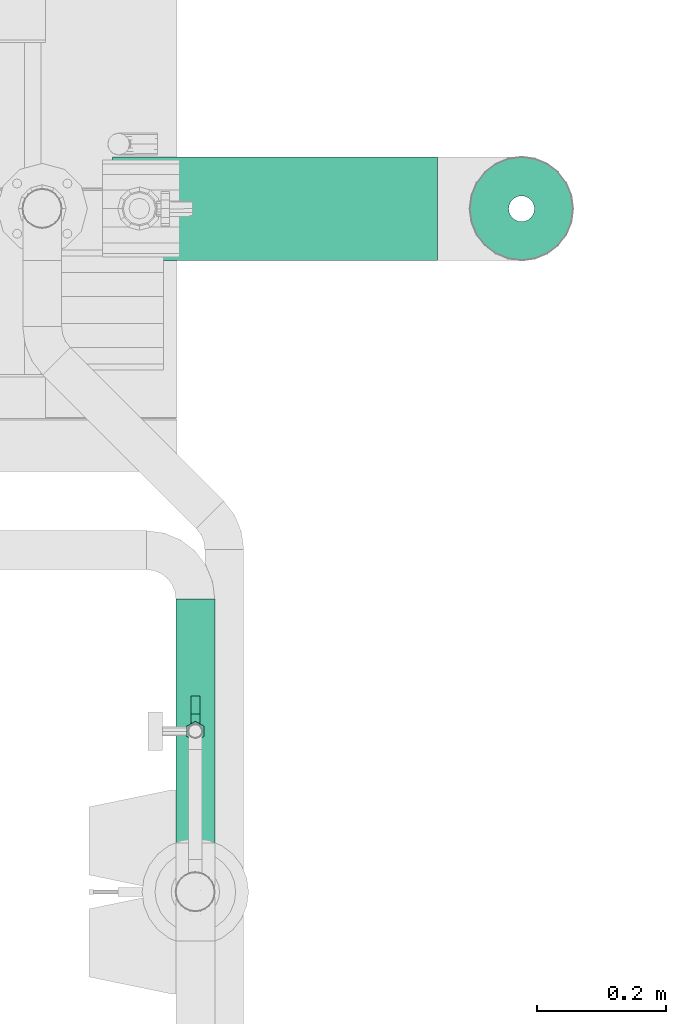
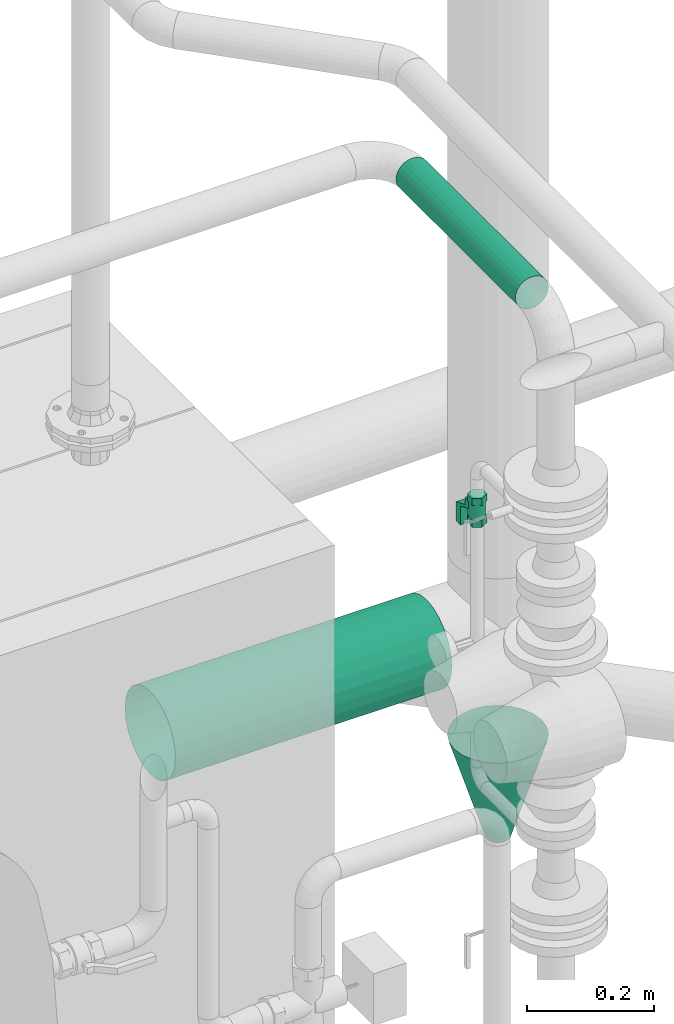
# One storey, part 293 of 374: 2 flow segments, 1 flow controller, 1 flow fitting.
"""IFC2X3 building model written with IfcOpenShell, lengths in metres."""

from ifc_helpers import new_model, si_unit, direction, origin, place, context, subcontext, project, spatial, open_shell, surface_model, source, transform, mapped, element, save


model = new_model("IFC2X3")

# Units and contexts
model_context = context("Model", 3, precision=1e-05, world=origin(), true_north=direction((-0.4480736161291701, 0.8939966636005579)))
body_context = subcontext(model_context, "Body", "Model", "MODEL_VIEW")
ifc_project = project(units=[si_unit("LENGTHUNIT", "METRE"), si_unit("AREAUNIT", "SQUARE_METRE"), si_unit("VOLUMEUNIT", "CUBIC_METRE"), si_unit("PLANEANGLEUNIT", "RADIAN"), si_unit("THERMODYNAMICTEMPERATUREUNIT", "KELVIN"), si_unit("MASSUNIT", "GRAM", prefix="KILO"), si_unit("TIMEUNIT", "SECOND")], contexts=[model_context])

# Site, building, storey
site_placement = place(None, origin())
site = spatial("IfcSite", under=ifc_project, at=site_placement, Name="Site 1", CompositionType="ELEMENT")
building_placement = place(site_placement, origin())
building = spatial("IfcBuilding", under=site, at=building_placement, Name="Undefined", CompositionType="ELEMENT")
storey_placement = place(building_placement, origin())
storey = spatial("IfcBuildingStorey", under=building, at=storey_placement, Name="Rez de chauss\x8ee", CompositionType="ELEMENT", Elevation=0.0)

# Flow fitting
shared_shape_1 = source(origin(), body_context, "Body", "SurfaceModel", [
    surface_model("IfcFaceBasedSurfaceModel", [(0.0008010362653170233, 0.020868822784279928, 0.0), (0.0, 0.0, 0.0), (0.20418056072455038, 0.0, 0.0), (0.2043808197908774, 0.005217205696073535, 1.4210854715e-14), (0.000801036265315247, -0.020218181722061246, -0.005170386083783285), (0.20438081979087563, -0.005054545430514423, -0.0012925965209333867), (0.003149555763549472, -0.03840788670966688, -0.01515880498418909), (0.20496794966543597, -0.009601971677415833, -0.0037897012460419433), (0.006885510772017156, -0.05332951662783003, -0.029284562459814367), (0.20590193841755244, -0.01333237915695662, -0.007321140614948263), (0.01175430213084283, -0.06396618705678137, -0.04658501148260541), (0.20711913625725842, -0.015991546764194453, -0.0116462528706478), (0.017424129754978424, -0.06959302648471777, -0.06588115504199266), (0.2085365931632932, -0.017398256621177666, -0.016470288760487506), (0.023508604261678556, -0.06982657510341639, -0.08585799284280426), (0.21005771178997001, -0.017456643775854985, -0.02146449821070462), (0.029593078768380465, -0.06465091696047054, -0.10515413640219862), (0.2115788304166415, -0.016162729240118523, -0.02628853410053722), (0.03526290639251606, -0.054418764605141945, -0.12245458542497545), (0.21299628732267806, -0.013604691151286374, -0.030613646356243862), (0.040131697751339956, -0.0398274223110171, -0.13658034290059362), (0.21421348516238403, -0.009956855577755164, -0.034145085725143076), (0.043867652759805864, -0.021871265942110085, -0.14656876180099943), (0.2151474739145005, -0.005467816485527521, -0.03664219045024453), (0.04621617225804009, -0.0017739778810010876, -0.1517391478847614), (0.2157346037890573, -0.0004434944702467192, -0.037934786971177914), (0.04701720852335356, 0.019094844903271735, -0.1517391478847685), (0.21593486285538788, 0.00477371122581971, -0.037934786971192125), (0.04621617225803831, 0.03931302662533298, -0.1465687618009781), (0.21573460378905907, 0.009828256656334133, -0.03664219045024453), (0.04386765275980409, 0.05750273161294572, -0.1365803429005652), (0.2151474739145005, 0.014375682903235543, -0.03414508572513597), (0.040131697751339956, 0.07242436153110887, -0.12245458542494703), (0.21421348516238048, 0.01810609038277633, -0.03061364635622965), (0.03526290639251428, 0.0830610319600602, -0.10515413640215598), (0.21299628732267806, 0.020765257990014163, -0.02628853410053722), (0.029593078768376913, 0.0886878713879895, -0.08585799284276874), (0.2115788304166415, 0.02217196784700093, -0.021464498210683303), (0.023508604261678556, 0.08892142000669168, -0.06588115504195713), (0.21005771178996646, 0.022230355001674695, -0.0164702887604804), (0.017424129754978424, 0.08374576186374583, -0.04658501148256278), (0.20853659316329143, 0.020936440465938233, -0.011646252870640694), (0.011754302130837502, 0.07351360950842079, -0.02928456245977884), (0.20711913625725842, 0.018378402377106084, -0.007321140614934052), (0.006885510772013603, 0.05892226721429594, -0.015158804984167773), (0.20590193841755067, 0.014730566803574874, -0.003789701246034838), (0.003149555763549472, 0.04096611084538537, -0.005170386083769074), (0.20496794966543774, 0.010241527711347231, -0.0012925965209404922)], [open_shell([[[0, 1, 2, 3]], [[1, 4, 5, 2]], [[4, 6, 7, 5]], [[6, 8, 9, 7]], [[8, 10, 11, 9]], [[10, 12, 13, 11]], [[12, 14, 15, 13]], [[14, 16, 17, 15]], [[16, 18, 19, 17]], [[18, 20, 21, 19]], [[20, 22, 23, 21]], [[22, 24, 25, 23]], [[24, 26, 27, 25]], [[26, 28, 29, 27]], [[28, 30, 31, 29]], [[30, 32, 33, 31]], [[32, 34, 35, 33]], [[34, 36, 37, 35]], [[36, 38, 39, 37]], [[38, 40, 41, 39]], [[40, 42, 43, 41]], [[42, 44, 45, 43]], [[44, 46, 47, 45]], [[46, 0, 3, 47]]])]),
])
flow_fitting_placement = place(storey_placement, origin())
element("IfcFlowFitting", 1, at=flow_fitting_placement, inside=storey, Name="Réduction conique", ObjectType="Réduction conique", context=body_context, shape_type="MappedRepresentation", body=[
    mapped(shared_shape_1, transform((55.58189192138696, 13.035229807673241, 0.435590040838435), x_axis=(-0.28384459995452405, 0.07605593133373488, -0.9558492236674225), y_axis=(0.14151750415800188, 0.989255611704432, 0.03668965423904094), z_axis=(0.9483696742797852, -0.12485523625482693, -0.29155810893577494))),
])

# Flow segments
shared_shape_2 = source(origin(), body_context, "Body", "SurfaceModel", [
    surface_model("IfcFaceBasedSurfaceModel", [(0.0, 0.020884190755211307, 0.0), (0.0, 0.0, 0.0), (0.503918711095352, 4.4408921e-16, -1.776356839e-15), (0.503918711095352, 0.020884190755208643, -1.776356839e-15), (0.0, -0.020172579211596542, -0.005405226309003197), (0.503918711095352, -0.02017257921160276, -0.005405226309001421), (0.0, -0.03825881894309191, -0.015847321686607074), (0.503918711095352, -0.0382588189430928, -0.015847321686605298), (0.0, -0.05302617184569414, -0.0306146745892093), (0.503918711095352, -0.05302617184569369, -0.0306146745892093), (0.0, -0.06346826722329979, -0.04870091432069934), (0.503918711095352, -0.06346826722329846, -0.04870091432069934), (0.0, -0.06887349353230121, -0.06887349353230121), (0.503918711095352, -0.06887349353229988, -0.06887349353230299), (0.0, -0.06887349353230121, -0.08975768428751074), (0.503918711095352, -0.06887349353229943, -0.08975768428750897), (0.0, -0.06346826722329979, -0.10993026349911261), (0.503918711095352, -0.06346826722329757, -0.10993026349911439), (0.0, -0.05302617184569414, -0.12801650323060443), (0.503918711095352, -0.05302617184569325, -0.12801650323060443), (0.0, -0.038258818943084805, -0.14278385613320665), (0.503918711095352, -0.03825881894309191, -0.14278385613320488), (0.0, -0.020172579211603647, -0.15322595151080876), (0.503918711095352, -0.020172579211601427, -0.15322595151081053), (0.0, 7.105427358e-15, -0.15863117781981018), (0.503918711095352, 1.776356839e-15, -0.15863117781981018), (0.0, 0.020884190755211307, -0.15863117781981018), (0.503918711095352, 0.020884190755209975, -0.15863117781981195), (0.0, 0.04105676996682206, -0.15322595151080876), (0.503918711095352, 0.041056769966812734, -0.15322595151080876), (0.0, 0.05914300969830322, -0.1427838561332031), (0.503918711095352, 0.05914300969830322, -0.14278385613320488), (0.0, 0.07391036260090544, -0.12801650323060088), (0.503918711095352, 0.07391036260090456, -0.12801650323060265), (0.0, 0.0843524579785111, -0.10993026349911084), (0.503918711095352, 0.08435245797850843, -0.10993026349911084), (0.0, 0.08975768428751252, -0.08975768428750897), (0.503918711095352, 0.08975768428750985, -0.08975768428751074), (0.0, 0.08975768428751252, -0.06887349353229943), (0.503918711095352, 0.08975768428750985, -0.06887349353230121), (0.0, 0.0843524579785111, -0.048700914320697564), (0.503918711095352, 0.08435245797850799, -0.048700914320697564), (0.0, 0.07391036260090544, -0.030614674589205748), (0.503918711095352, 0.07391036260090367, -0.030614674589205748), (0.0, 0.05914300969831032, -0.015847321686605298), (0.503918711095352, 0.05914300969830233, -0.015847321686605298), (0.0, 0.04105676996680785, -0.005405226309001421), (0.503918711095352, 0.041056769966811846, -0.005405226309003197)], [open_shell([[[0, 1, 2, 3]], [[1, 4, 5, 2]], [[4, 6, 7, 5]], [[6, 8, 9, 7]], [[8, 10, 11, 9]], [[10, 12, 13, 11]], [[12, 14, 15, 13]], [[14, 16, 17, 15]], [[16, 18, 19, 17]], [[18, 20, 21, 19]], [[20, 22, 23, 21]], [[22, 24, 25, 23]], [[24, 26, 27, 25]], [[26, 28, 29, 27]], [[28, 30, 31, 29]], [[30, 32, 33, 31]], [[32, 34, 35, 33]], [[34, 36, 37, 35]], [[36, 38, 39, 37]], [[38, 40, 41, 39]], [[40, 42, 43, 41]], [[42, 44, 45, 43]], [[44, 46, 47, 45]], [[46, 0, 3, 47]]])]),
])
flow_segment_1_placement = place(storey_placement, origin())
element("IfcFlowSegment", 2, at=flow_segment_1_placement, inside=storey, Name="Tube", ObjectType="Tube", context=body_context, shape_type="MappedRepresentation", body=[
    mapped(shared_shape_2, transform((55.37461785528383, 12.978661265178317, 0.6812955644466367), x_axis=(-1.0, 0.0, 0.0), y_axis=(9.56658874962e-13, -0.13052619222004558, -0.9914448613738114), z_axis=(7.266545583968e-12, -0.9914448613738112, 0.13052619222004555))),
])
shared_shape_3 = source(origin(), body_context, "Body", "SurfaceModel", [
    surface_model("IfcFaceBasedSurfaceModel", [(0.0, 0.007870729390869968, 7.105427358e-15), (0.0, 0.0, 0.0), (0.3774448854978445, 0.0, 8.8817842e-16), (0.3774448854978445, 0.007870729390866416, 0.0), (0.0, -0.00760254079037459, -0.0020370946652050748), (0.3774448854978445, -0.007602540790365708, -0.0020370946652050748), (0.0, -0.01441879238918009, -0.00597245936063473), (0.3774448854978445, -0.014418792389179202, -0.005972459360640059), (0.0, -0.019984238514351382, -0.011537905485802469), (0.3774448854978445, -0.019984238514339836, -0.011537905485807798), (0.0, -0.023919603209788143, -0.018354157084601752), (0.3774448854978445, -0.023919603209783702, -0.0183541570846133), (0.0, -0.025956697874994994, -0.025956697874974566), (0.3774448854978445, -0.02595669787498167, -0.025956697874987), (0.0, -0.025956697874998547, -0.03382742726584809), (0.3774448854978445, -0.025956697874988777, -0.03382742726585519), (0.0, -0.02391960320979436, -0.041429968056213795), (0.3774448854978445, -0.023919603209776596, -0.041429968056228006), (0.0, -0.019984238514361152, -0.04824621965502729), (0.3774448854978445, -0.01998423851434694, -0.048246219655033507), (0.0, -0.01441879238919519, -0.05381166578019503), (0.3774448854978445, -0.014418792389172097, -0.053811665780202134), (0.0, -0.007602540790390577, -0.05774703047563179), (0.3774448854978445, -0.007602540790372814, -0.05774703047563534), (0.0, -1.7763568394e-14, -0.05978412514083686), (0.3774448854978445, 0.0, -0.059784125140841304), (0.0, 0.007870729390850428, -0.05978412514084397), (0.3774448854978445, 0.007870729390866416, -0.059784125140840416), (0.0, 0.015473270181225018, -0.057747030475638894), (0.3774448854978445, 0.01547327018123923, -0.05774703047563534), (0.0, 0.022289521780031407, -0.05381166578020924), (0.3774448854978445, 0.022289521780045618, -0.05381166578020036), (0.0, 0.027854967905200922, -0.048246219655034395), (0.3774448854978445, 0.027854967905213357, -0.04824621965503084), (0.0, 0.031790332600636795, -0.04142996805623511), (0.3774448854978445, 0.03179033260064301, -0.04142996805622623), (0.0, 0.033827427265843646, -0.0338274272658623), (0.3774448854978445, 0.03382742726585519, -0.033827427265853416), (0.0, 0.0338274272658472, -0.025956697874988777), (0.3774448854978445, 0.03382742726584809, -0.025956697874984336), (0.0, 0.0317903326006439, -0.01835415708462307), (0.3774448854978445, 0.03179033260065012, -0.018354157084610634), (0.0, 0.02785496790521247, -0.01153790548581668), (0.3774448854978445, 0.027854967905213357, -0.011537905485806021), (0.0, 0.022289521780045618, -0.005972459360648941), (0.3774448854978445, 0.022289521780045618, -0.0059724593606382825), (0.0, 0.015473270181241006, -0.0020370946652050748), (0.3774448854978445, 0.01547327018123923, -0.0020370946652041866)], [open_shell([[[0, 1, 2, 3]], [[1, 4, 5, 2]], [[4, 6, 7, 5]], [[6, 8, 9, 7]], [[8, 10, 11, 9]], [[10, 12, 13, 11]], [[12, 14, 15, 13]], [[14, 16, 17, 15]], [[16, 18, 19, 17]], [[18, 20, 21, 19]], [[20, 22, 23, 21]], [[22, 24, 25, 23]], [[24, 26, 27, 25]], [[26, 28, 29, 27]], [[28, 30, 31, 29]], [[30, 32, 33, 31]], [[32, 34, 35, 33]], [[34, 36, 37, 35]], [[36, 38, 39, 37]], [[38, 40, 41, 39]], [[40, 42, 43, 41]], [[42, 44, 45, 43]], [[44, 46, 47, 45]], [[46, 0, 3, 47]]])]),
])
flow_segment_2_placement = place(storey_placement, origin())
element("IfcFlowSegment", 3, at=flow_segment_2_placement, inside=storey, Name="Tube acier d'après DIN 2448", ObjectType="Tube acier d'après DIN 2448", context=body_context, shape_type="MappedRepresentation", body=[
    mapped(shared_shape_3, transform((55.00713263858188, 12.451121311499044, 2.0305190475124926), x_axis=(0.0, -1.0, 0.0), y_axis=(-0.9914448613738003, 0.0, -0.13052619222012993), z_axis=(0.130526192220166, 0.0, -0.9914448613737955))),
])

# Flow controller
shared_shape_4 = source(origin(), body_context, "Body", "SurfaceModel", [
    surface_model("IfcFaceBasedSurfaceModel", [(0.0, 0.0, 0.0), (0.01399999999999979, 0.0, 0.0), (0.01399999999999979, 0.013999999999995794, 0.0), (0.0, 0.013999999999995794, 0.0), (0.014000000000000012, 0.0, -0.014000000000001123), (0.014000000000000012, 0.013999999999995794, -0.014000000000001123), (0.0, 0.0, -0.014000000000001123), (0.0, 0.013999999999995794, -0.014000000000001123), (-0.011333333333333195, 0.0, -0.041999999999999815), (-0.011333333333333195, 0.013999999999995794, -0.041999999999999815), (-0.04800000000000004, 0.0, -0.041999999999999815), (-0.04800000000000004, 0.013999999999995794, -0.041999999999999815), (-0.04800000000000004, 0.0, -0.02800000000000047), (-0.04800000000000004, 0.013999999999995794, -0.02800000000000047), (-0.011333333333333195, 0.0, -0.02800000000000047), (-0.011333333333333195, 0.013999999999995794, -0.02800000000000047), (0.0345000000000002, 0.02049999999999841, 0.020794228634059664), (0.0345000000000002, 0.02049999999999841, 0.005205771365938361), (0.021300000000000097, 0.02049999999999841, 0.005205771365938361), (0.021300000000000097, 0.02049999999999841, 0.020794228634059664), (0.0345000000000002, 0.006999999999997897, 0.028588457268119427), (0.021300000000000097, 0.006999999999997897, 0.028588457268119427), (0.0345000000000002, -0.006500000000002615, 0.020794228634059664), (0.021300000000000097, -0.006500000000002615, 0.020794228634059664), (0.0345000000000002, -0.006500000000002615, 0.005205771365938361), (0.021300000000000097, -0.006500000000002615, 0.005205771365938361), (0.0345000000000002, 0.006999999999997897, -0.0025884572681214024), (0.021300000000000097, 0.006999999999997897, -0.0025884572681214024), (0.021300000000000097, -0.006500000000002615, 0.0129999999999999), (0.021300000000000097, -0.006039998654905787, 0.01649405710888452), (-0.007299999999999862, -0.006039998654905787, 0.01649405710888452), (-0.007299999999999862, -0.006500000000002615, 0.0129999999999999), (0.021300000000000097, -0.00469134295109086, 0.019750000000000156), (-0.007299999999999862, -0.00469134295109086, 0.019750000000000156), (0.021300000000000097, -0.0025459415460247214, 0.022545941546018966), (-0.007299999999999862, -0.0025459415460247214, 0.022545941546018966), (0.021300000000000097, 0.0002499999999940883, 0.024691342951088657), (-0.007299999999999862, 0.0002499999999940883, 0.024691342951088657), (0.021300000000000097, 0.003505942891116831, 0.026039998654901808), (-0.007299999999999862, 0.003505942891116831, 0.026039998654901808), (0.021300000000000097, 0.006999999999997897, 0.026499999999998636), (-0.007299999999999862, 0.006999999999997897, 0.026499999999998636), (0.021300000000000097, 0.010494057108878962, 0.026039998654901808), (-0.007299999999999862, 0.010494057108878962, 0.026039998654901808), (0.021300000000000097, 0.0137499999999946, 0.024691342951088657), (-0.007299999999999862, 0.0137499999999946, 0.024691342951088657), (0.021300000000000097, 0.016545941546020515, 0.022545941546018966), (-0.007299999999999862, 0.016545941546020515, 0.022545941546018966), (0.021300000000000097, 0.018691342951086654, 0.019750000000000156), (-0.007299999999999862, 0.018691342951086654, 0.019750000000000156), (0.021300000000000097, 0.02003999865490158, 0.01649405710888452), (-0.007299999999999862, 0.02003999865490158, 0.01649405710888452), (0.021300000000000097, 0.02049999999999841, 0.0129999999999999), (-0.007299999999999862, 0.02049999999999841, 0.0129999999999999), (0.021300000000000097, 0.02003999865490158, 0.009505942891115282), (-0.007299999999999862, 0.02003999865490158, 0.009505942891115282), (0.021300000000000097, 0.018691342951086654, 0.006249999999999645), (-0.007299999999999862, 0.018691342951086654, 0.006249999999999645), (0.021300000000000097, 0.016545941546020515, 0.003454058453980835), (-0.007299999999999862, 0.016545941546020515, 0.003454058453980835), (0.021300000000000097, 0.0137499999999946, 0.0013086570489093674), (-0.007299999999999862, 0.0137499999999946, 0.0013086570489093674), (0.021300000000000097, 0.010494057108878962, -3.999865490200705e-05), (-0.007299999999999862, 0.010494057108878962, -3.999865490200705e-05), (0.021300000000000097, 0.006999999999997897, -0.0005000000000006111), (-0.007299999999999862, 0.006999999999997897, -0.0005000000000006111), (0.021300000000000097, 0.003505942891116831, -3.999865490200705e-05), (-0.007299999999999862, 0.003505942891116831, -3.999865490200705e-05), (0.021300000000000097, 0.0002499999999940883, 0.0013086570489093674), (-0.007299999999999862, 0.0002499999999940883, 0.0013086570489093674), (0.021300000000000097, -0.0025459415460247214, 0.003454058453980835), (-0.007299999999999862, -0.0025459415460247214, 0.003454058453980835), (0.021300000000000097, -0.00469134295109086, 0.006249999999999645), (-0.007299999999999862, -0.00469134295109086, 0.006249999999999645), (0.021300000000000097, -0.006039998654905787, 0.009505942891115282), (-0.007299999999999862, -0.006039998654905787, 0.009505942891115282), (-0.007299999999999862, 0.02049999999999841, 0.020794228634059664), (-0.007299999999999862, 0.02049999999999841, 0.005205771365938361), (-0.020499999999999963, 0.02049999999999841, 0.005205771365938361), (-0.020499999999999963, 0.02049999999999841, 0.020794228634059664), (-0.007299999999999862, 0.006999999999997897, 0.028588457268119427), (-0.020499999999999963, 0.006999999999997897, 0.028588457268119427), (-0.007299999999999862, -0.006500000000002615, 0.020794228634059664), (-0.020499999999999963, -0.006500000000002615, 0.020794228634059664), (-0.007299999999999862, -0.006500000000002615, 0.005205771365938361), (-0.020499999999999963, -0.006500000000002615, 0.005205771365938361), (-0.007299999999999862, 0.006999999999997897, -0.0025884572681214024), (-0.020499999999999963, 0.006999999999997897, -0.0025884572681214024), (0.0, 0.006999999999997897, 0.0129999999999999), (0.00205025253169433, 0.011949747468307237, 0.0129999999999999), (0.00205025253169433, 0.011949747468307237, 0.0), (0.0, 0.006999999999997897, 0.0), (0.007000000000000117, 0.013999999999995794, 0.0129999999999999), (0.007000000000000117, 0.013999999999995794, 0.0), (0.011949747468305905, 0.011949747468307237, 0.0129999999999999), (0.011949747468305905, 0.011949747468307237, 0.0), (0.014000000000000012, 0.006999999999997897, 0.0129999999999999), (0.01399999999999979, 0.006999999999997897, 0.0), (0.011949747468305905, 0.0020502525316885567, 0.0129999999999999), (0.011949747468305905, 0.0020502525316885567, 0.0), (0.007000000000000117, 0.0, 0.0129999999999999), (0.007000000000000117, 0.0, 0.0), (0.00205025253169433, 0.0020502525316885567, 0.0129999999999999), (0.00205025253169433, 0.0020502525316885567, 0.0)], [open_shell([[[0, 1, 2, 3]], [[1, 4, 5, 2]], [[4, 6, 7, 5]], [[6, 8, 9, 7]], [[8, 10, 11, 9]], [[10, 12, 13, 11]], [[12, 14, 15, 13]], [[14, 0, 3, 15]], [[2, 7, 3]], [[9, 3, 7]], [[3, 9, 15]], [[11, 15, 9]], [[15, 11, 13]], [[7, 2, 5]], [[0, 6, 1]], [[6, 0, 8]], [[14, 8, 0]], [[8, 14, 10]], [[12, 10, 14]], [[4, 1, 6]], [[16, 17, 18, 19]], [[20, 16, 19, 21]], [[22, 20, 21, 23]], [[24, 22, 23, 25]], [[26, 24, 25, 27]], [[17, 26, 27, 18]], [[17, 16, 20]], [[17, 20, 22]], [[17, 22, 24]], [[17, 24, 26]], [[18, 21, 19]], [[18, 23, 21]], [[18, 25, 23]], [[18, 27, 25]], [[28, 29, 30, 31]], [[29, 32, 33, 30]], [[32, 34, 35, 33]], [[34, 36, 37, 35]], [[36, 38, 39, 37]], [[38, 40, 41, 39]], [[40, 42, 43, 41]], [[42, 44, 45, 43]], [[44, 46, 47, 45]], [[46, 48, 49, 47]], [[48, 50, 51, 49]], [[50, 52, 53, 51]], [[52, 54, 55, 53]], [[54, 56, 57, 55]], [[56, 58, 59, 57]], [[58, 60, 61, 59]], [[60, 62, 63, 61]], [[62, 64, 65, 63]], [[64, 66, 67, 65]], [[66, 68, 69, 67]], [[68, 70, 71, 69]], [[70, 72, 73, 71]], [[72, 74, 75, 73]], [[74, 28, 31, 75]], [[76, 77, 78, 79]], [[80, 76, 79, 81]], [[82, 80, 81, 83]], [[84, 82, 83, 85]], [[86, 84, 85, 87]], [[77, 86, 87, 78]], [[77, 76, 80]], [[77, 80, 82]], [[77, 82, 84]], [[77, 84, 86]], [[78, 81, 79]], [[78, 83, 81]], [[78, 85, 83]], [[78, 87, 85]], [[88, 89, 90, 91]], [[89, 92, 93, 90]], [[92, 94, 95, 93]], [[94, 96, 97, 95]], [[96, 98, 99, 97]], [[98, 100, 101, 99]], [[100, 102, 103, 101]], [[102, 88, 91, 103]]])]),
])
flow_controller_placement = place(storey_placement, origin())
element("IfcFlowController", 4, at=flow_controller_placement, inside=storey, Name="Robinet à boisseau", ObjectType="Robinet à boisseau", context=body_context, shape_type="MappedRepresentation", body=[
    mapped(shared_shape_4, transform((55.00632924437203, 12.259448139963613, 1.5323001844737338), x_axis=(0.0, 0.0, 1.0), y_axis=(-1.0, 0.0, 0.0), z_axis=(0.0, -1.0, 0.0))),
])

save(model, "model.ifc")
